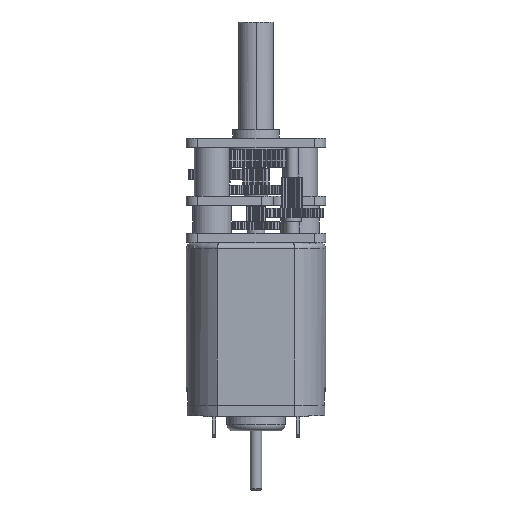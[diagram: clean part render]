
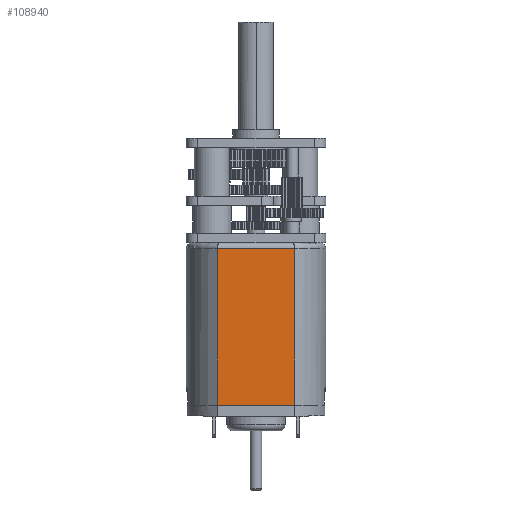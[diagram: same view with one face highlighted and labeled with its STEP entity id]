
A CAD part, front view. The second image highlights one B-rep face of the part: STEP entity #108940.
In plain terms, the highlighted planar face has unit normal (0, -1, 0).
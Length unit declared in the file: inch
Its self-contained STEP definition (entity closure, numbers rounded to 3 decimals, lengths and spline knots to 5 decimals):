
#719 = CARTESIAN_POINT ( 'NONE',  ( -0.13057, -0.19683, -0.55118 ) ) ;
#5387 = CARTESIAN_POINT ( 'NONE',  ( -0.04352, -0.19685, -0.55118 ) ) ;
#8112 = CARTESIAN_POINT ( 'NONE',  ( 0.13057, -0.19683, -0.55118 ) ) ;
#14537 = AXIS2_PLACEMENT_3D ( 'NONE', #100875, #37406, #79636 ) ;
#15036 = PLANE ( 'NONE',  #14537 ) ;
#15613 = VERTEX_POINT ( 'NONE', #117236 ) ;
#16364 = VERTEX_POINT ( 'NONE', #101589 ) ;
#27771 = EDGE_CURVE ( 'NONE', #65703, #15613, #55587, .T. ) ;
#28421 = VECTOR ( 'NONE', #100483, 39.37008 ) ;
#30101 = B_SPLINE_CURVE_WITH_KNOTS ( 'NONE', 3,
 ( #78850, #5387, #101400, #8112 ),
 .UNSPECIFIED., .F., .F.,
 ( 4, 4 ),
 ( 0., 1. ),
 .UNSPECIFIED. ) ;
#35122 = CARTESIAN_POINT ( 'NONE',  ( 0.13058, -0.19685, -0.55118 ) ) ;
#37406 = DIRECTION ( 'NONE',  ( 0., -1., 0. ) ) ;
#40704 = VECTOR ( 'NONE', #100939, 39.37008 ) ;
#50068 = EDGE_LOOP ( 'NONE', ( #122237, #108638, #81611, #79129 ) ) ;
#50890 = EDGE_CURVE ( 'NONE', #107065, #65703, #30101, .T. ) ;
#55587 = LINE ( 'NONE', #35122, #125641 ) ;
#56061 = CARTESIAN_POINT ( 'NONE',  ( 0.13057, -0.19683, -0.55118 ) ) ;
#59545 = LINE ( 'NONE', #60191, #28421 ) ;
#60191 = CARTESIAN_POINT ( 'NONE',  ( 0., -0.19685, -0.01969 ) ) ;
#65064 = EDGE_CURVE ( 'NONE', #107065, #16364, #90037, .T. ) ;
#65703 = VERTEX_POINT ( 'NONE', #56061 ) ;
#78850 = CARTESIAN_POINT ( 'NONE',  ( -0.13057, -0.19683, -0.55118 ) ) ;
#79129 = ORIENTED_EDGE ( 'NONE', *, *, #50890, .T. ) ;
#79636 = DIRECTION ( 'NONE',  ( -1., 0., 0. ) ) ;
#81611 = ORIENTED_EDGE ( 'NONE', *, *, #65064, .F. ) ;
#90037 = LINE ( 'NONE', #114599, #40704 ) ;
#100483 = DIRECTION ( 'NONE',  ( -1., 0., 0. ) ) ;
#100875 = CARTESIAN_POINT ( 'NONE',  ( 0., -0.19685, -0.55118 ) ) ;
#100939 = DIRECTION ( 'NONE',  ( 0., 0., 1. ) ) ;
#101400 = CARTESIAN_POINT ( 'NONE',  ( 0.04352, -0.19685, -0.55118 ) ) ;
#101589 = CARTESIAN_POINT ( 'NONE',  ( -0.13058, -0.19685, -0.01969 ) ) ;
#102967 = EDGE_CURVE ( 'NONE', #15613, #16364, #59545, .T. ) ;
#107065 = VERTEX_POINT ( 'NONE', #719 ) ;
#108638 = ORIENTED_EDGE ( 'NONE', *, *, #102967, .T. ) ;
#108940 = ADVANCED_FACE ( 'NONE', ( #118704 ), #15036, .T. ) ;
#114599 = CARTESIAN_POINT ( 'NONE',  ( -0.13058, -0.19685, -0.55118 ) ) ;
#117236 = CARTESIAN_POINT ( 'NONE',  ( 0.13058, -0.19685, -0.01969 ) ) ;
#118497 = DIRECTION ( 'NONE',  ( 0., 0., 1. ) ) ;
#118704 = FACE_OUTER_BOUND ( 'NONE', #50068, .T. ) ;
#122237 = ORIENTED_EDGE ( 'NONE', *, *, #27771, .T. ) ;
#125641 = VECTOR ( 'NONE', #118497, 39.37008 ) ;
